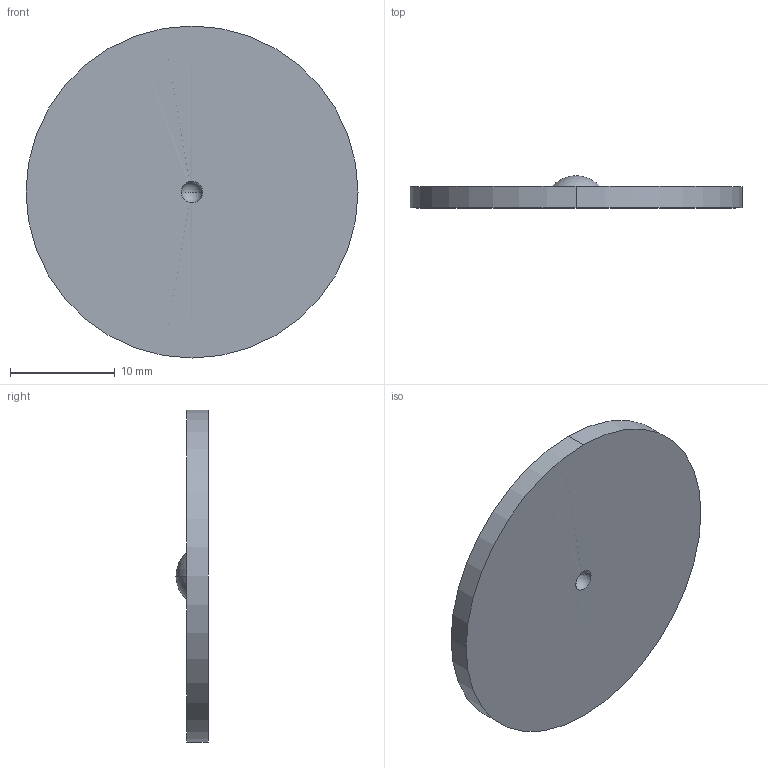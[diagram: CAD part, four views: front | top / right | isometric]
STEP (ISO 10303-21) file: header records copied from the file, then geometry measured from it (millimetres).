
FILE_DESCRIPTION (( 'STEP AP203' ), '1' );
FILE_NAME ('1614613-10.STEP', '2024-11-13T15:15:14', ( '' ), ( '' ), 'SwSTEP 2.0', 'SolidWorks 2024', '' );
FILE_SCHEMA (( 'CONFIG_CONTROL_DESIGN' ));
Length unit declared in the file: inch
Products named in the file (1): 1614613-10
Bounding box: 31.75 x 3.07 x 31.75 mm (x, y, z)
Volume: 1615.7 mm3; surface area: 1793 mm2
Topology: 1 solids, 1 shells, 10 faces, 25 edges, 17 vertices
Faces by surface type: sphere 6, cylinder 2, plane 2
Entity records: 285 total; most frequent: DIRECTION 44, CARTESIAN_POINT 33, ORIENTED_EDGE 28, AXIS2_PLACEMENT_3D 21, EDGE_CURVE 14, CIRCLE 12, EDGE_LOOP 10, VERTEX_POINT 10
